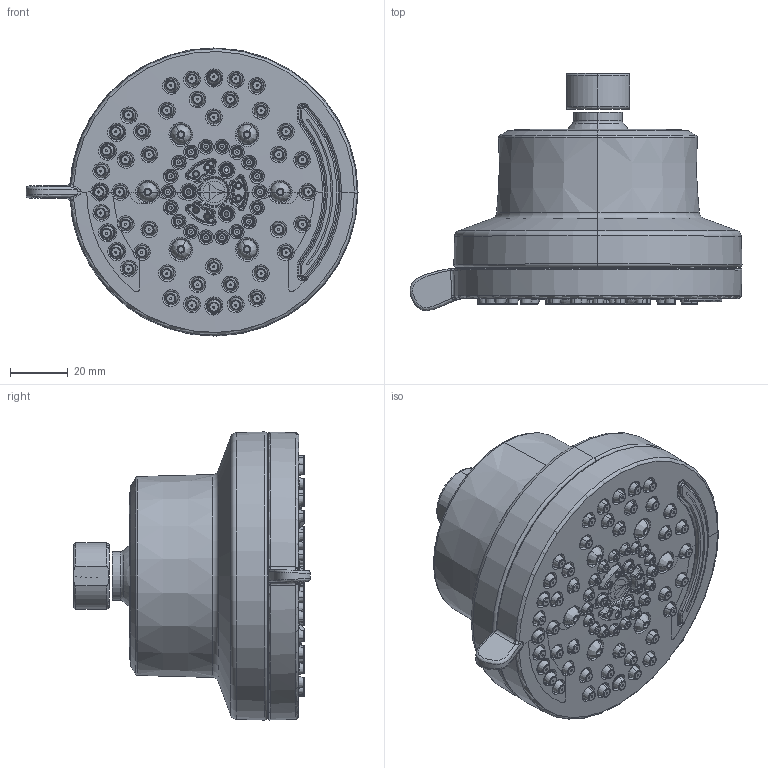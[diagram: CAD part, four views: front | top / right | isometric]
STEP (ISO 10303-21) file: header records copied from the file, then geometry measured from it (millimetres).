
FILE_DESCRIPTION (( 'STEP AP214' ), '1' );
FILE_NAME ('482SH7.STEP', '2025-01-07T02:05:38', ( '' ), ( '' ), 'SwSTEP 2.0', 'SolidWorks 2023', '' );
FILE_SCHEMA (( 'AUTOMOTIVE_DESIGN' ));
Length unit declared in the file: inch
Products named in the file (1): 482SH7
Bounding box: 115.21 x 82.24 x 100 mm (x, y, z)
Surface area: 50126.1 mm2 (no closed solid volume)
Topology: 0 solids, 105 shells, 1398 faces, 5959 edges, 4656 vertices
Faces by surface type: bspline 561, cone 505, plane 225, torus 47, cylinder 40, sphere 20
Entity records: 202184 total; most frequent: CARTESIAN_POINT 160476, ORIENTED_EDGE 8502, DIRECTION 5987, EDGE_CURVE 5954, VERTEX_POINT 4653, B_SPLINE_CURVE_WITH_KNOTS 2551, LINE 2467, VECTOR 2467
